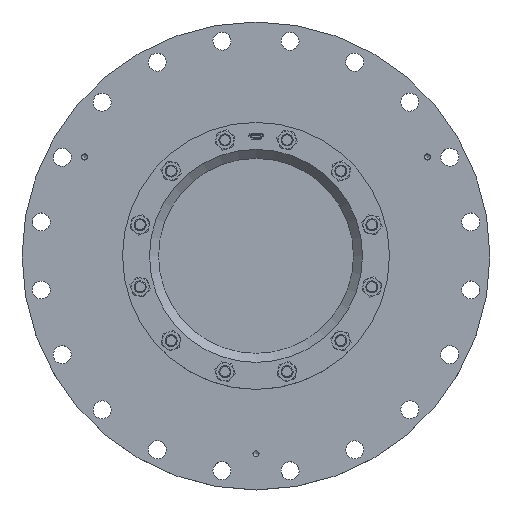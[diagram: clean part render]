
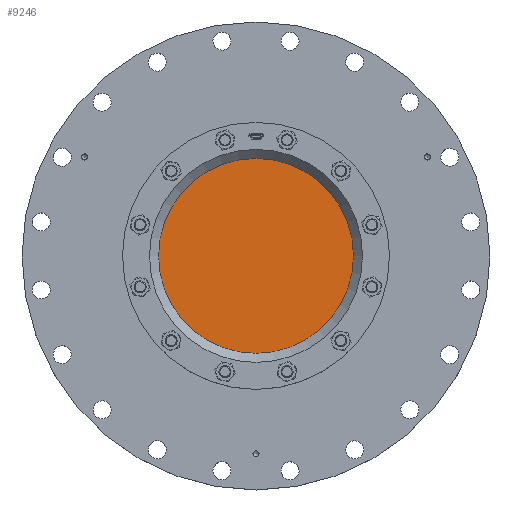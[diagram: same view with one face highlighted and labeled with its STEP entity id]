
A CAD part, top view. The second image highlights one B-rep face of the part: STEP entity #9246.
In plain terms, the highlighted planar face has unit normal (0, 0, 1).
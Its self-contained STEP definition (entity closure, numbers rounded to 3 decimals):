
#1848=PLANE('',#9908);
#2374=FACE_OUTER_BOUND('',#2968,.T.);
#2968=EDGE_LOOP('',(#6374));
#3640=CIRCLE('',#9909,162.5);
#4012=VERTEX_POINT('',#13409);
#4949=EDGE_CURVE('',#4012,#4012,#3640,.T.);
#6374=ORIENTED_EDGE('',*,*,#4949,.F.);
#9246=ADVANCED_FACE('',(#2374),#1848,.F.);
#9908=AXIS2_PLACEMENT_3D('',#13408,#10898,#10899);
#9909=AXIS2_PLACEMENT_3D('',#13410,#10900,#10901);
#10898=DIRECTION('center_axis',(0.,0.,-1.));
#10899=DIRECTION('ref_axis',(-1.,0.,0.));
#10900=DIRECTION('center_axis',(0.,0.,-1.));
#10901=DIRECTION('ref_axis',(-1.,0.,0.));
#13408=CARTESIAN_POINT('Origin',(0.,0.,120.));
#13409=CARTESIAN_POINT('',(162.5,0.,120.));
#13410=CARTESIAN_POINT('Origin',(0.,0.,120.));
